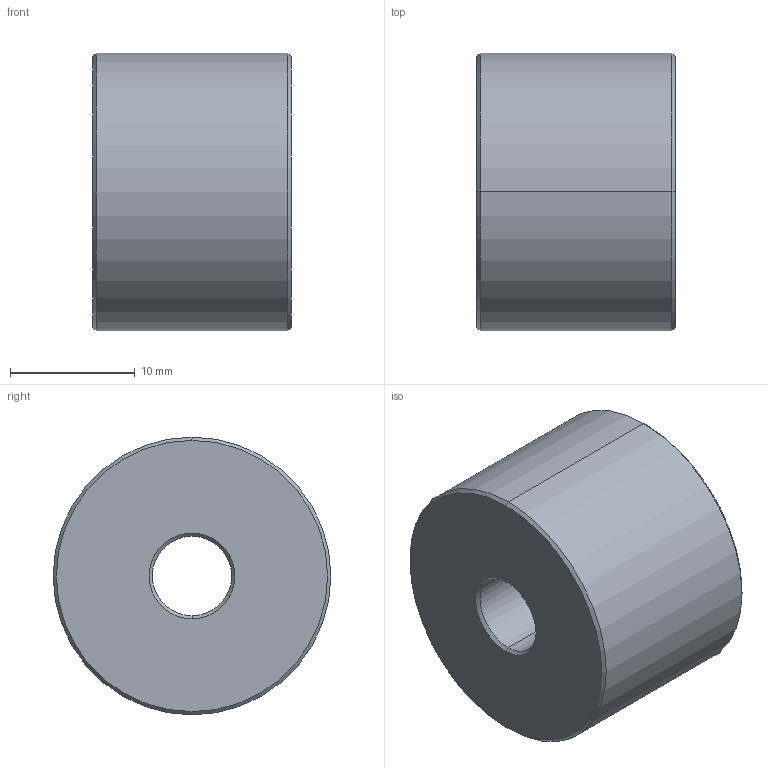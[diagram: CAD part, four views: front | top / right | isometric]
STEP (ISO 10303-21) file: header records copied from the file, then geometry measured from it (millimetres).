
FILE_DESCRIPTION (( 'STEP AP214' ), '1' );
FILE_NAME ('DRP-002-0554-00.STEP', '2013-12-20T17:41:09', ( 'ydmin' ), ( 'Microsoft' ), 'SwSTEP 2.0', 'SolidWorks 2013', '' );
FILE_SCHEMA (( 'AUTOMOTIVE_DESIGN' ));
Length unit declared in the file: inch
Products named in the file (1): DRP-002-0554-00
Bounding box: 15.88 x 22.23 x 22.23 mm (x, y, z)
Volume: 5650.1 mm3; surface area: 2111 mm2
Topology: 1 solids, 1 shells, 14 faces, 28 edges, 16 vertices
Faces by surface type: cone 8, cylinder 4, plane 2
Entity records: 590 total; most frequent: DIRECTION 74, CARTESIAN_POINT 59, ORIENTED_EDGE 56, AXIS2_PLACEMENT_3D 31, EDGE_CURVE 28, LENGTH_MEASURE_WITH_UNIT 17, UNCERTAINTY_MEASURE_WITH_UNIT 17, DIMENSIONAL_EXPONENTS 17
